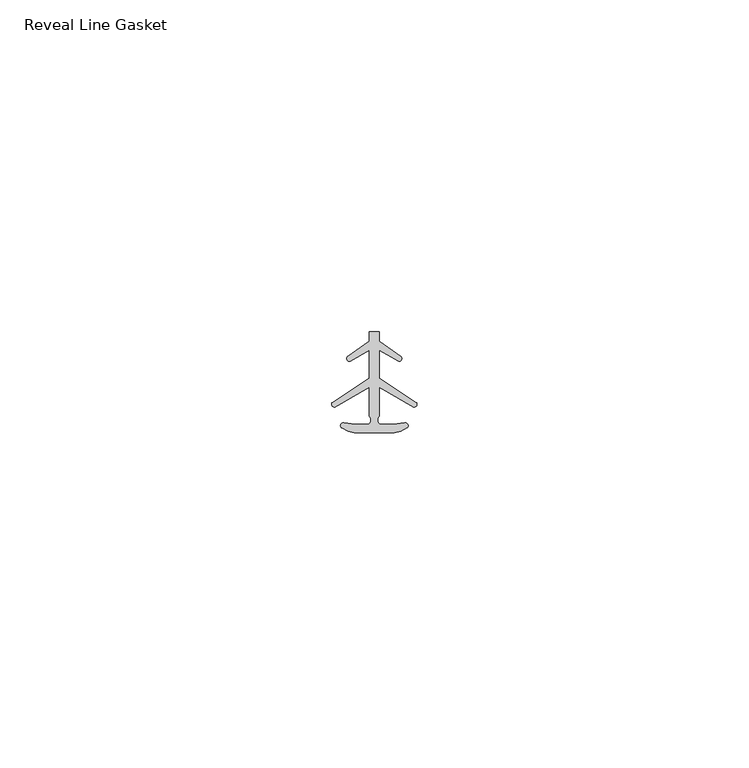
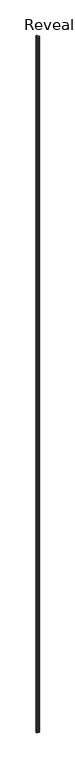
"""IFC4 building model written with IfcOpenShell, lengths in millimetres: proxy geometry, Accessories-Teknion-FHGR-AI_Healthcare-Reveal_Line_Gasket-R2021 : Reveal Line Gasket."""

import ifcopenshell
import ifcopenshell.guid

model = None  # the IFC model being written
_history = None  # IfcOwnerHistory: only IFC2X3 demands one
_inside = {}  # id of a spatial element -> (the spatial element, [elements in it])
_under = {}  # id of a project, library or spatial element -> (it, [spatial elements below it])
_declared = {}  # id of a project -> (the project, [libraries it declares])
_typed = {}  # id of a type object -> (the type object, [elements of that type])
_made_of = {}  # id of a material, layer set ... -> (it, [elements and type objects made of it])


def new_model(schema):
    """Start an empty IFC model of exactly this schema.

    Asked for "IFC4X3", IfcOpenShell would pick the latest addendum, in which some entities
    have other attributes; the version numbers below select the first issue.
    IFC2X3 requires an IfcOwnerHistory on every rooted entity: one is made here for all.
    """
    global model, _history
    if schema == "IFC4X3":
        model = ifcopenshell.file(schema_version=(4, 3, 0, 0))
    else:
        model = ifcopenshell.file(schema=schema)
    _inside.clear()
    _under.clear()
    _declared.clear()
    _typed.clear()
    _made_of.clear()
    _history = None
    if model.schema == "IFC2X3":
        org = make("IfcOrganization", Name="unknown")
        user = make(
            "IfcPersonAndOrganization",
            ThePerson=make("IfcPerson", FamilyName="unknown"),
            TheOrganization=org,
        )
        app = make(
            "IfcApplication",
            ApplicationDeveloper=org,
            Version="unknown",
            ApplicationFullName="unknown",
            ApplicationIdentifier="unknown",
        )
        _history = make(
            "IfcOwnerHistory",
            OwningUser=user,
            OwningApplication=app,
            ChangeAction="ADDED",
            CreationDate=0,
        )
    return model


def make(cls, **values):
    """One entity of the class cls with the attributes given. An attribute that is None is left unset."""
    return model.create_entity(
        cls, **{name: value for name, value in values.items() if value is not None}
    )


def rooted(cls, **values):
    """An entity with a GlobalId (a new one), such as an element, a storey or a relation."""
    return make(cls, GlobalId=ifcopenshell.guid.new(), OwnerHistory=_history, **values)


def si_unit(unit_type, name, prefix=None):
    """IfcSIUnit, for example si_unit("LENGTHUNIT", "METRE", prefix="MILLI")."""
    return make("IfcSIUnit", UnitType=unit_type, Prefix=prefix, Name=name)


def assignment(units):
    """IfcUnitAssignment: the units of a project."""
    return None if units is None else make("IfcUnitAssignment", Units=units)


def point(xyz):
    """IfcCartesianPoint."""
    return None if xyz is None else make("IfcCartesianPoint", Coordinates=xyz)


def direction(xyz):
    """IfcDirection."""
    return None if xyz is None else make("IfcDirection", DirectionRatios=xyz)


def frame(location, z_axis=None, x_axis=None):
    """IfcAxis2Placement3D, a coordinate frame: its origin and axes. An axis left out is left unset."""
    return make(
        "IfcAxis2Placement3D",
        Location=point(location),
        Axis=direction(z_axis),
        RefDirection=direction(x_axis),
    )


def frame_2d(location, x_axis=None):
    """IfcAxis2Placement2D, a coordinate frame in the plane: its origin and x axis."""
    return make(
        "IfcAxis2Placement2D", Location=point(location), RefDirection=direction(x_axis)
    )


def origin():
    """The frame at (0, 0, 0) with its axes left unset."""
    return frame((0.0, 0.0, 0.0))


def place(relative_to, where):
    """IfcLocalPlacement: puts the frame where relative to a parent placement (None: the world)."""
    return make(
        "IfcLocalPlacement", PlacementRelTo=relative_to, RelativePlacement=where
    )


def context(
    kind, dimensions, precision=None, world=None, true_north=None, identifier=None
):
    """IfcGeometricRepresentationContext, for example the 3D "Model" context."""
    return make(
        "IfcGeometricRepresentationContext",
        ContextIdentifier=identifier,
        ContextType=kind,
        CoordinateSpaceDimension=dimensions,
        Precision=precision,
        WorldCoordinateSystem=world,
        TrueNorth=true_north,
    )


def project(units=None, contexts=None):
    """IfcProject with its units and contexts."""
    return rooted(
        "IfcProject",
        Name="project",
        RepresentationContexts=contexts,
        UnitsInContext=assignment(units),
    )


def spatial(cls, under=None, at=None, **own):
    """A site, building, storey or space (cls), placed at a placement, below another one or the project."""
    s = rooted(cls, ObjectPlacement=at, **own)
    if under is not None:
        _under.setdefault(under.id(), (under, []))[1].append(s)
    return s


def polyline(points):
    """IfcPolyline through the points."""
    return make("IfcPolyline", Points=[point(p) for p in points])


def circle_curve(where, radius):
    """IfcCircle in the frame where."""
    return make("IfcCircle", Position=where, Radius=radius)


def trimmed(basis, trim1, trim2, sense, master):
    """IfcTrimmedCurve: the piece of a basis curve between two trims."""
    return make(
        "IfcTrimmedCurve",
        BasisCurve=basis,
        Trim1=trim1,
        Trim2=trim2,
        SenseAgreement=sense,
        MasterRepresentation=master,
    )


def segment(curve, same_sense, transition):
    """IfcCompositeCurveSegment."""
    return make(
        "IfcCompositeCurveSegment",
        Transition=transition,
        SameSense=same_sense,
        ParentCurve=curve,
    )


def composite_curve(segments, self_intersect=None):
    """IfcCompositeCurve: segments joined end to end."""
    return make("IfcCompositeCurve", Segments=segments, SelfIntersect=self_intersect)


def outline(outer, holes=None, kind="AREA"):
    """IfcArbitraryClosedProfileDef: a profile drawn as a closed curve; with holes, ...WithVoids."""
    if holes is None:
        return make("IfcArbitraryClosedProfileDef", ProfileType=kind, OuterCurve=outer)
    return make(
        "IfcArbitraryProfileDefWithVoids",
        ProfileType=kind,
        OuterCurve=outer,
        InnerCurves=holes,
    )


def extrude(swept, where, along, depth):
    """IfcExtrudedAreaSolid: the profile swept, set in the frame where, extruded along a direction by depth."""
    return make(
        "IfcExtrudedAreaSolid",
        SweptArea=swept,
        Position=where,
        ExtrudedDirection=direction(along),
        Depth=depth,
    )


def shape(context_of_items, identifier, shape_type, items):
    """IfcShapeRepresentation: the items that make up one representation, for example the "Body"."""
    return make(
        "IfcShapeRepresentation",
        ContextOfItems=context_of_items,
        RepresentationIdentifier=identifier,
        RepresentationType=shape_type,
        Items=items,
    )


def source(mapping_origin, context_of_items, identifier, shape_type, items):
    """IfcRepresentationMap: a shape defined once, which mapped items show again and again."""
    return make(
        "IfcRepresentationMap",
        MappingOrigin=mapping_origin,
        MappedRepresentation=shape(context_of_items, identifier, shape_type, items),
    )


def transform(
    local_origin,
    x_axis=None,
    y_axis=None,
    z_axis=None,
    scale=None,
    scale2=None,
    scale3=None,
    uniform=True,
):
    """IfcCartesianTransformationOperator3D, or its non-uniform kind. x_axis, y_axis, z_axis: its Axis1, 2, 3."""
    if uniform:
        return make(
            "IfcCartesianTransformationOperator3D",
            Axis1=direction(x_axis),
            Axis2=direction(y_axis),
            LocalOrigin=point(local_origin),
            Scale=scale,
            Axis3=direction(z_axis),
        )
    return make(
        "IfcCartesianTransformationOperator3DnonUniform",
        Axis1=direction(x_axis),
        Axis2=direction(y_axis),
        LocalOrigin=point(local_origin),
        Scale=scale,
        Axis3=direction(z_axis),
        Scale2=scale2,
        Scale3=scale3,
    )


def mapped(mapping_source, mapping_target):
    """IfcMappedItem: shows the shape of a source again, moved by a transform."""
    return make(
        "IfcMappedItem", MappingSource=mapping_source, MappingTarget=mapping_target
    )


def made_of(thing, what):
    """Note that an element or type object is made of a material, layer set ...; save() writes the relation."""
    if what is not None:
        _made_of.setdefault(what.id(), (what, []))[1].append(thing)
    return thing


def element(
    cls,
    number,
    at=None,
    inside=None,
    cuts=None,
    type_object=None,
    material=None,
    context=None,
    identifier="Body",
    shape_type=None,
    held_by="IfcProductDefinitionShape",
    body=None,
    shapes=None,
    **own,
):
    """One element of the class cls, such as IfcWall. Its Tag is "e" and its number.

    at: its placement. inside: the storey or other place that contains it. cuts: it is an
    opening in that element (IfcRelVoidsElement). A single representation is given by context,
    identifier, shape_type and body (its items); several are given by shapes. held_by: the class
    of the entity that holds the representations. save() writes the other relations.
    """
    e = rooted(cls, Tag="e%d" % number, ObjectPlacement=at, **own)
    if body is not None:
        shapes = [shape(context, identifier, shape_type, body)]
    if shapes is not None:
        e.Representation = make(held_by, Representations=shapes)
    if inside is not None:
        _inside.setdefault(inside.id(), (inside, []))[1].append(e)
    if cuts is not None:
        rooted(
            "IfcRelVoidsElement", RelatingBuildingElement=cuts, RelatedOpeningElement=e
        )
    if type_object is not None:
        _typed.setdefault(type_object.id(), (type_object, []))[1].append(e)
    return made_of(e, material)


def aggregate(whole, parts):
    """IfcRelAggregates: a whole, such as a stair, and the parts it consists of."""
    return rooted("IfcRelAggregates", RelatingObject=whole, RelatedObjects=parts)


def save(model, path):
    """Write the relations noted so far, then the file.

    IfcRelAggregates (storeys below a building ...), IfcRelContainedInSpatialStructure (elements
    in a storey), IfcRelDefinesByType, IfcRelAssociatesMaterial and IfcRelDeclares: one each for
    every whole, place, type object, material and project.
    """
    for whole, parts in _under.values():
        aggregate(whole, parts)
    for where, things in _inside.values():
        rooted(
            "IfcRelContainedInSpatialStructure",
            RelatedElements=things,
            RelatingStructure=where,
        )
    for kind, things in _typed.values():
        rooted("IfcRelDefinesByType", RelatedObjects=things, RelatingType=kind)
    for what, things in _made_of.values():
        rooted("IfcRelAssociatesMaterial", RelatedObjects=things, RelatingMaterial=what)
    for by, libraries in _declared.values():
        rooted("IfcRelDeclares", RelatingContext=by, RelatedDefinitions=libraries)
    model.write(path)


def reveal_line_gasket_9cb4d504(model_context):
    return source(origin(), model_context, "Body", "SweptSolid", [
        extrude(outline(composite_curve([segment(polyline([(2.999107, -7.6326998), (-3.000893, -7.6326998), (-3.9563857, -7.4091917), (-4.8893614, -6.8813059)]), True, "CONTINUOUS"), segment(trimmed(circle_curve(frame_2d((-4.6873723, -6.5243141)), 0.4101739), [point((-4.8893614, -6.8813059))], [point((-4.5950277, -6.1246704))], False, "CARTESIAN"), True, "CONTINUOUS"), segment(polyline([(-4.5950277, -6.1246704), (-2.8988015, -6.3626997), (-0.8663457, -6.3626997)]), True, "CONTINUOUS"), segment(trimmed(circle_curve(frame_2d((-1.2828188, -5.6959605)), 0.786124), [point((-0.8663457, -6.3626997))], [point((-0.778768, -5.0926996))], True, "CARTESIAN"), True, "CONTINUOUS"), segment(polyline([(-0.778768, -5.0926996), (-0.778768, -0.7492996), (-5.9404224, -3.7293824)]), True, "CONTINUOUS"), segment(trimmed(circle_curve(frame_2d((-6.0058691, -3.3132479)), 0.4212495), [point((-5.9404224, -3.7293824))], [point((-6.3335288, -3.0485022))], False, "CARTESIAN"), True, "CONTINUOUS"), segment(polyline([(-6.3335288, -3.0485022), (-0.778768, 0.5742594), (-0.778768, 4.8262978), (-3.6544226, 3.1660374)]), True, "CONTINUOUS"), segment(trimmed(circle_curve(frame_2d((-3.7127785, 3.5978728)), 0.4357605), [point((-3.6544226, 3.1660374))], [point((-4.0575811, 3.864328))], False, "CARTESIAN"), True, "CONTINUOUS"), segment(polyline([(-4.0575811, 3.864328), (-0.778768, 6.1944059), (-0.778768, 7.6326998), (0.7769821, 7.6326998), (0.7769821, 6.1944059), (4.0557951, 3.864328)]), True, "CONTINUOUS"), segment(trimmed(circle_curve(frame_2d((3.7109925, 3.5978728)), 0.4357605), [point((4.0557951, 3.864328))], [point((3.6526367, 3.1660374))], False, "CARTESIAN"), True, "CONTINUOUS"), segment(polyline([(3.6526367, 3.1660374), (0.7769821, 4.8262978), (0.7769821, 0.5742594), (6.3317429, -3.0485022)]), True, "CONTINUOUS"), segment(trimmed(circle_curve(frame_2d((6.0040832, -3.3132479)), 0.4212495), [point((6.3317429, -3.0485022))], [point((5.9386365, -3.7293824))], False, "CARTESIAN"), True, "CONTINUOUS"), segment(polyline([(5.9386365, -3.7293824), (0.7769821, -0.7492996), (0.7769821, -5.0926996)]), True, "CONTINUOUS"), segment(trimmed(circle_curve(frame_2d((1.2810328, -5.6959605)), 0.786124), [point((0.7769821, -5.0926996))], [point((0.8645598, -6.3626997))], True, "CARTESIAN"), True, "CONTINUOUS"), segment(polyline([(0.8645598, -6.3626997), (2.8970156, -6.3626997), (4.5932418, -6.1246704)]), True, "CONTINUOUS"), segment(trimmed(circle_curve(frame_2d((4.6855864, -6.5243141)), 0.4101739), [point((4.5932418, -6.1246704))], [point((4.8875754, -6.8813059))], False, "CARTESIAN"), True, "CONTINUOUS"), segment(polyline([(4.8875754, -6.8813059), (3.9545998, -7.4091917), (2.999107, -7.6326998)]), True, "CONTINUOUS")], self_intersect=False)), frame((0.0, 0.0, 84.836), z_axis=(0.0, 0.0, 1.0), x_axis=(1.0, 0.0, 0.0)), (0.0, 0.0, 1.0), 2963.164),
    ])


if __name__ == "__main__":
    model = new_model("IFC4")
    model_context = context("Model", 3, world=origin())
    ifc_project = project(units=[si_unit("LENGTHUNIT", "METRE", prefix="MILLI")], contexts=[model_context])
    site = spatial("IfcSite", under=ifc_project)
    building = spatial("IfcBuilding", under=site)
    placement = place(None, origin())
    reveal_line_gasket_shape = reveal_line_gasket_9cb4d504(model_context)
    element("IfcBuildingElementProxy", 1, Name="Accessories-Teknion-FHGR-AI_Healthcare-Reveal_Line_Gasket-R2021 : Reveal Line Gasket", ObjectType="Accessories-Teknion-FHGR-AI_Healthcare-Reveal_Line_Gasket-R2021 : Reveal Line Gasket", at=placement, inside=building, context=model_context, shape_type="MappedRepresentation", body=[
        mapped(reveal_line_gasket_shape, transform((0.0, 0.0, 0.0), x_axis=(1.0, 0.0, 0.0), y_axis=(0.0, 1.0, 0.0), z_axis=(0.0, 0.0, 1.0))),
    ])
    save(model, "model.ifc")
